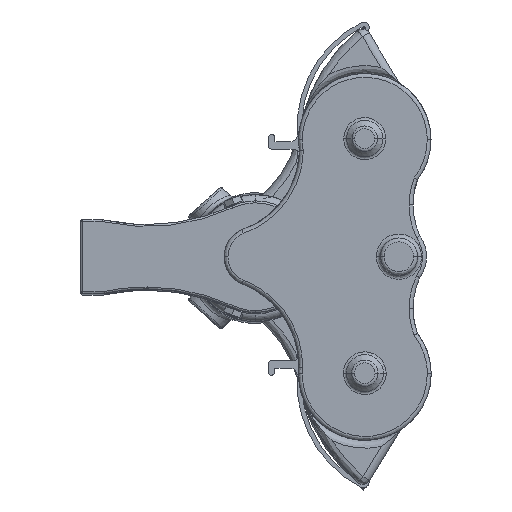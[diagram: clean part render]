
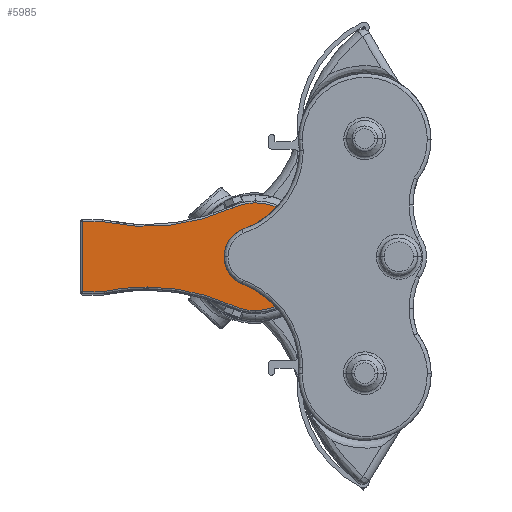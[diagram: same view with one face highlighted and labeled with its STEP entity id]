
A CAD part, left-side view. The second image highlights one B-rep face of the part: STEP entity #5985.
In plain terms, the highlighted planar face has unit normal (-1, 0, 0) as drawn and (0, 0, -1) by its records, which use the part's own axes.
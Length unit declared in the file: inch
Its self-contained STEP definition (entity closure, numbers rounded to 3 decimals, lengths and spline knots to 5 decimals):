
#804 = DIRECTION ( 'NONE',  ( 1., 0., 0. ) ) ;
#1055 = DIRECTION ( 'NONE',  ( 1., 0., 0. ) ) ;
#1246 = CARTESIAN_POINT ( 'NONE',  ( 0., 4.475, -1.825 ) ) ;
#1280 = ORIENTED_EDGE ( 'NONE', *, *, #17650, .T. ) ;
#1512 = ORIENTED_EDGE ( 'NONE', *, *, #2932, .T. ) ;
#1641 = CARTESIAN_POINT ( 'NONE',  ( 0.89022, 0.59799, -1.825 ) ) ;
#1648 = EDGE_CURVE ( 'NONE', #11934, #9474, #21809, .T. ) ;
#1700 = DIRECTION ( 'NONE',  ( 1., 0., 0. ) ) ;
#1955 = DIRECTION ( 'NONE',  ( 0., 0., -1. ) ) ;
#1970 = ORIENTED_EDGE ( 'NONE', *, *, #11887, .T. ) ;
#2376 = VERTEX_POINT ( 'NONE', #3048 ) ;
#2551 = VERTEX_POINT ( 'NONE', #10648 ) ;
#2706 = DIRECTION ( 'NONE',  ( 0., 0., -1. ) ) ;
#2932 = EDGE_CURVE ( 'NONE', #13490, #5509, #20332, .T. ) ;
#3048 = CARTESIAN_POINT ( 'NONE',  ( -0.8979, 0.05, -1.825 ) ) ;
#3675 = ORIENTED_EDGE ( 'NONE', *, *, #6081, .T. ) ;
#3726 = CARTESIAN_POINT ( 'NONE',  ( 0., 4.475, -1.825 ) ) ;
#3735 = AXIS2_PLACEMENT_3D ( 'NONE', #3726, #1955, #16430 ) ;
#3769 = EDGE_LOOP ( 'NONE', ( #12536, #15105 ) ) ;
#4093 = CARTESIAN_POINT ( 'NONE',  ( 0., 4.475, -1.825 ) ) ;
#4125 = VERTEX_POINT ( 'NONE', #20953 ) ;
#4722 = ORIENTED_EDGE ( 'NONE', *, *, #16320, .T. ) ;
#4885 = VERTEX_POINT ( 'NONE', #10527 ) ;
#4919 = VERTEX_POINT ( 'NONE', #1641 ) ;
#5053 = VECTOR ( 'NONE', #18701, 39.37008 ) ;
#5147 = DIRECTION ( 'NONE',  ( 0., 0., 1. ) ) ;
#5334 = LINE ( 'NONE', #19198, #18129 ) ;
#5344 = AXIS2_PLACEMENT_3D ( 'NONE', #1246, #8487, #6706 ) ;
#5465 = CARTESIAN_POINT ( 'NONE',  ( -1.38, 4.475, -1.825 ) ) ;
#5509 = VERTEX_POINT ( 'NONE', #19682 ) ;
#5528 = DIRECTION ( 'NONE',  ( 0., 0., -1. ) ) ;
#5796 = CARTESIAN_POINT ( 'NONE',  ( 1.38, 4.475, -1.825 ) ) ;
#5927 = AXIS2_PLACEMENT_3D ( 'NONE', #8111, #14019, #22783 ) ;
#5985 = ADVANCED_FACE ( 'NONE', ( #14934, #22491 ), #9813, .F. ) ;
#6081 = EDGE_CURVE ( 'NONE', #10311, #23001, #23412, .T. ) ;
#6123 = DIRECTION ( 'NONE',  ( 0., 0., 1. ) ) ;
#6169 = EDGE_CURVE ( 'NONE', #2551, #2376, #5334, .T. ) ;
#6606 = AXIS2_PLACEMENT_3D ( 'NONE', #16837, #5147, #1700 ) ;
#6706 = DIRECTION ( 'NONE',  ( -1., 0., 0. ) ) ;
#6749 = EDGE_LOOP ( 'NONE', ( #22142, #1970, #3675, #18571, #4722, #16344, #1512, #21909, #1280, #22459, #18776 ) ) ;
#6897 = EDGE_CURVE ( 'NONE', #7677, #13490, #12071, .T. ) ;
#7677 = VERTEX_POINT ( 'NONE', #5465 ) ;
#8111 = CARTESIAN_POINT ( 'NONE',  ( 0., 4.475, -1.825 ) ) ;
#8487 = DIRECTION ( 'NONE',  ( 0., 0., -1. ) ) ;
#9474 = VERTEX_POINT ( 'NONE', #14300 ) ;
#9646 = VERTEX_POINT ( 'NONE', #10960 ) ;
#9813 = PLANE ( 'NONE',  #19625 ) ;
#9822 = DIRECTION ( 'NONE',  ( 1., 0., 0. ) ) ;
#9918 = DIRECTION ( 'NONE',  ( 0., 0., -1. ) ) ;
#9954 = CARTESIAN_POINT ( 'NONE',  ( -6.075, 1.69709, -1.825 ) ) ;
#10311 = VERTEX_POINT ( 'NONE', #14343 ) ;
#10527 = CARTESIAN_POINT ( 'NONE',  ( -0.8979, 0.54806, -1.825 ) ) ;
#10648 = CARTESIAN_POINT ( 'NONE',  ( 0.8979, 0.05, -1.825 ) ) ;
#10960 = CARTESIAN_POINT ( 'NONE',  ( -1.25501, 3.90112, -1.825 ) ) ;
#11096 = DIRECTION ( 'NONE',  ( 1., 0., 0. ) ) ;
#11887 = EDGE_CURVE ( 'NONE', #4885, #10311, #17037, .T. ) ;
#11934 = VERTEX_POINT ( 'NONE', #15510 ) ;
#12071 = CIRCLE ( 'NONE', #3735, 1.38 ) ;
#12529 = VECTOR ( 'NONE', #15700, 39.37008 ) ;
#12536 = ORIENTED_EDGE ( 'NONE', *, *, #1648, .F. ) ;
#12550 = CIRCLE ( 'NONE', #5344, 0.775 ) ;
#13163 = DIRECTION ( 'NONE',  ( 1., 0., 0. ) ) ;
#13490 = VERTEX_POINT ( 'NONE', #5796 ) ;
#13705 = CIRCLE ( 'NONE', #14481, 1.38 ) ;
#13803 = EDGE_CURVE ( 'NONE', #4125, #2551, #15825, .T. ) ;
#14019 = DIRECTION ( 'NONE',  ( 0., 0., -1. ) ) ;
#14064 = DIRECTION ( 'NONE',  ( 1., 0., 0. ) ) ;
#14300 = CARTESIAN_POINT ( 'NONE',  ( 0.775, 4.475, -1.825 ) ) ;
#14343 = CARTESIAN_POINT ( 'NONE',  ( -0.89022, 0.59799, -1.825 ) ) ;
#14353 = DIRECTION ( 'NONE',  ( -1., 0., 0. ) ) ;
#14481 = AXIS2_PLACEMENT_3D ( 'NONE', #16723, #14953, #13163 ) ;
#14845 = EDGE_CURVE ( 'NONE', #9474, #11934, #12550, .T. ) ;
#14872 = CIRCLE ( 'NONE', #17120, 5.3 ) ;
#14934 = FACE_OUTER_BOUND ( 'NONE', #6749, .T. ) ;
#14953 = DIRECTION ( 'NONE',  ( 0., 0., -1. ) ) ;
#15105 = ORIENTED_EDGE ( 'NONE', *, *, #14845, .F. ) ;
#15251 = DIRECTION ( 'NONE',  ( 1., 0., 0. ) ) ;
#15379 = CARTESIAN_POINT ( 'NONE',  ( -0.8979, 0.5, -1.825 ) ) ;
#15510 = CARTESIAN_POINT ( 'NONE',  ( -0.775, 4.475, -1.825 ) ) ;
#15700 = DIRECTION ( 'NONE',  ( 0., -1., 0. ) ) ;
#15825 = LINE ( 'NONE', #22684, #12529 ) ;
#16320 = EDGE_CURVE ( 'NONE', #9646, #7677, #13705, .T. ) ;
#16344 = ORIENTED_EDGE ( 'NONE', *, *, #6897, .T. ) ;
#16430 = DIRECTION ( 'NONE',  ( 1., 0., 0. ) ) ;
#16443 = EDGE_CURVE ( 'NONE', #23001, #9646, #14872, .T. ) ;
#16723 = CARTESIAN_POINT ( 'NONE',  ( 0., 4.475, -1.825 ) ) ;
#16831 = CIRCLE ( 'NONE', #6606, 5.3 ) ;
#16837 = CARTESIAN_POINT ( 'NONE',  ( 6.075, 1.69709, -1.825 ) ) ;
#16941 = CARTESIAN_POINT ( 'NONE',  ( -0.45, 0.50467, -1.825 ) ) ;
#16995 = AXIS2_PLACEMENT_3D ( 'NONE', #20347, #6123, #15251 ) ;
#17037 = CIRCLE ( 'NONE', #18545, 0.45 ) ;
#17120 = AXIS2_PLACEMENT_3D ( 'NONE', #9954, #20622, #1055 ) ;
#17650 = EDGE_CURVE ( 'NONE', #4919, #4125, #19805, .T. ) ;
#17664 = AXIS2_PLACEMENT_3D ( 'NONE', #4093, #5528, #11096 ) ;
#17721 = EDGE_CURVE ( 'NONE', #2376, #4885, #18811, .T. ) ;
#18129 = VECTOR ( 'NONE', #14353, 39.37008 ) ;
#18545 = AXIS2_PLACEMENT_3D ( 'NONE', #16941, #2706, #9822 ) ;
#18571 = ORIENTED_EDGE ( 'NONE', *, *, #16443, .T. ) ;
#18605 = EDGE_CURVE ( 'NONE', #5509, #4919, #16831, .T. ) ;
#18701 = DIRECTION ( 'NONE',  ( 0., 1., 0. ) ) ;
#18776 = ORIENTED_EDGE ( 'NONE', *, *, #6169, .T. ) ;
#18811 = LINE ( 'NONE', #15379, #5053 ) ;
#19198 = CARTESIAN_POINT ( 'NONE',  ( 0.95, 0.05, -1.825 ) ) ;
#19625 = AXIS2_PLACEMENT_3D ( 'NONE', #20605, #22606, #804 ) ;
#19682 = CARTESIAN_POINT ( 'NONE',  ( 1.25501, 3.90112, -1.825 ) ) ;
#19805 = CIRCLE ( 'NONE', #22444, 0.45 ) ;
#20332 = CIRCLE ( 'NONE', #17664, 1.38 ) ;
#20347 = CARTESIAN_POINT ( 'NONE',  ( -6.075, 1.69709, -1.825 ) ) ;
#20605 = CARTESIAN_POINT ( 'NONE',  ( 0.95, 0.5, -1.825 ) ) ;
#20622 = DIRECTION ( 'NONE',  ( 0., 0., 1. ) ) ;
#20758 = CARTESIAN_POINT ( 'NONE',  ( -0.775, 1.69709, -1.825 ) ) ;
#20953 = CARTESIAN_POINT ( 'NONE',  ( 0.8979, 0.54806, -1.825 ) ) ;
#21056 = CARTESIAN_POINT ( 'NONE',  ( 0.45, 0.50467, -1.825 ) ) ;
#21809 = CIRCLE ( 'NONE', #5927, 0.775 ) ;
#21909 = ORIENTED_EDGE ( 'NONE', *, *, #18605, .T. ) ;
#22142 = ORIENTED_EDGE ( 'NONE', *, *, #17721, .T. ) ;
#22444 = AXIS2_PLACEMENT_3D ( 'NONE', #21056, #9918, #14064 ) ;
#22459 = ORIENTED_EDGE ( 'NONE', *, *, #13803, .T. ) ;
#22491 = FACE_BOUND ( 'NONE', #3769, .T. ) ;
#22606 = DIRECTION ( 'NONE',  ( 0., 0., 1. ) ) ;
#22684 = CARTESIAN_POINT ( 'NONE',  ( 0.8979, 0.5, -1.825 ) ) ;
#22783 = DIRECTION ( 'NONE',  ( -1., 0., 0. ) ) ;
#23001 = VERTEX_POINT ( 'NONE', #20758 ) ;
#23412 = CIRCLE ( 'NONE', #16995, 5.3 ) ;
